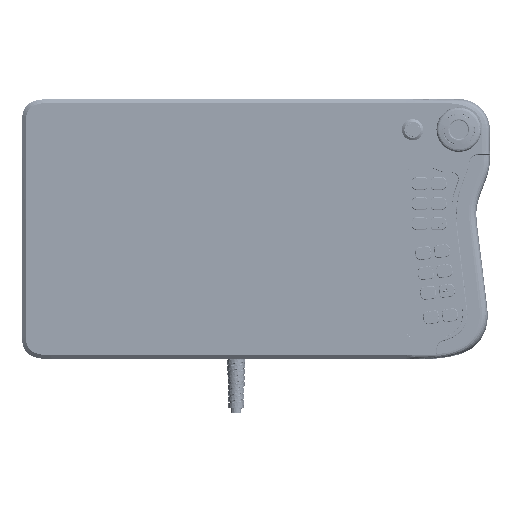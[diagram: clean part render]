
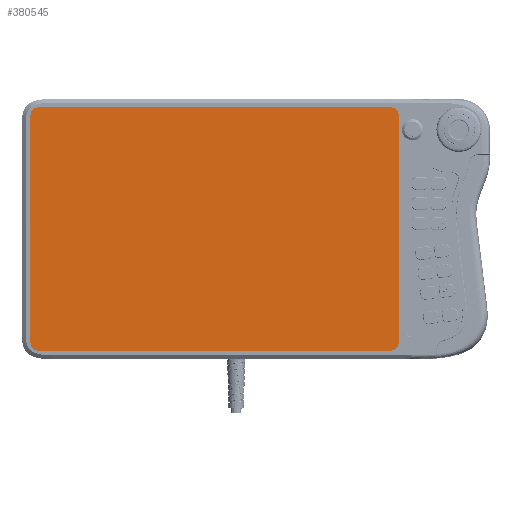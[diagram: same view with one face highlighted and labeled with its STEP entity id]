
A CAD part, top view. The second image highlights one B-rep face of the part: STEP entity #380545.
In plain terms, the highlighted planar face has unit normal (0, 0, 1).
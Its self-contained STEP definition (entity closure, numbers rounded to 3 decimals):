
#25164 = CARTESIAN_POINT ( 'NONE',  ( 114.5, -79., 1.1 ) ) ;
#35203 = DIRECTION ( 'NONE',  ( 0., 0., 1. ) ) ;
#53644 = AXIS2_PLACEMENT_3D ( 'NONE', #79893, #465156, #375251 ) ;
#57230 = CARTESIAN_POINT ( 'NONE',  ( -114.5, -79., 1.1 ) ) ;
#59113 = EDGE_CURVE ( 'NONE', #159739, #280519, #526230, .T. ) ;
#68881 = EDGE_LOOP ( 'NONE', ( #84112, #437809, #125998, #106822, #91320, #188319, #500232, #387315 ) ) ;
#71876 = DIRECTION ( 'NONE',  ( 1., 0., 0. ) ) ;
#79893 = CARTESIAN_POINT ( 'NONE',  ( -114.5, -74., 1.1 ) ) ;
#84112 = ORIENTED_EDGE ( 'NONE', *, *, #249235, .T. ) ;
#91320 = ORIENTED_EDGE ( 'NONE', *, *, #381263, .T. ) ;
#102255 = EDGE_CURVE ( 'NONE', #502082, #159739, #551039, .T. ) ;
#106822 = ORIENTED_EDGE ( 'NONE', *, *, #59113, .T. ) ;
#125998 = ORIENTED_EDGE ( 'NONE', *, *, #102255, .T. ) ;
#135528 = EDGE_CURVE ( 'NONE', #294052, #213425, #542081, .T. ) ;
#155969 = DIRECTION ( 'NONE',  ( 0., 0., 1. ) ) ;
#158154 = PLANE ( 'NONE',  #257189 ) ;
#159739 = VERTEX_POINT ( 'NONE', #370920 ) ;
#176243 = LINE ( 'NONE', #266142, #418395 ) ;
#181494 = CARTESIAN_POINT ( 'NONE',  ( 119.5, -79., 1.1 ) ) ;
#188319 = ORIENTED_EDGE ( 'NONE', *, *, #261785, .T. ) ;
#210721 = LINE ( 'NONE', #213523, #401098 ) ;
#213425 = VERTEX_POINT ( 'NONE', #334065 ) ;
#213523 = CARTESIAN_POINT ( 'NONE',  ( -119.5, -79., 1.1 ) ) ;
#226490 = DIRECTION ( 'NONE',  ( 0., 1., 0. ) ) ;
#237849 = VERTEX_POINT ( 'NONE', #309466 ) ;
#239730 = CARTESIAN_POINT ( 'NONE',  ( -119.5, 74., 1.1 ) ) ;
#241142 = CARTESIAN_POINT ( 'NONE',  ( 119.5, 74., 1.1 ) ) ;
#245264 = DIRECTION ( 'NONE',  ( 1., 0., 0. ) ) ;
#248881 = CARTESIAN_POINT ( 'NONE',  ( 114.5, -74., 1.1 ) ) ;
#249235 = EDGE_CURVE ( 'NONE', #213425, #466685, #344767, .T. ) ;
#257189 = AXIS2_PLACEMENT_3D ( 'NONE', #284723, #287488, #245264 ) ;
#261785 = EDGE_CURVE ( 'NONE', #237849, #361762, #466678, .T. ) ;
#266142 = CARTESIAN_POINT ( 'NONE',  ( 119.5, -79., 1.1 ) ) ;
#271677 = VECTOR ( 'NONE', #226490, 1000. ) ;
#280519 = VERTEX_POINT ( 'NONE', #239730 ) ;
#284723 = CARTESIAN_POINT ( 'NONE',  ( 0., 0., 1.1 ) ) ;
#287488 = DIRECTION ( 'NONE',  ( 0., 0., 1. ) ) ;
#294052 = VERTEX_POINT ( 'NONE', #25164 ) ;
#296721 = CARTESIAN_POINT ( 'NONE',  ( -114.5, 74., 1.1 ) ) ;
#299709 = AXIS2_PLACEMENT_3D ( 'NONE', #248881, #35203, #347234 ) ;
#301415 = AXIS2_PLACEMENT_3D ( 'NONE', #501789, #155969, #490780 ) ;
#303197 = EDGE_CURVE ( 'NONE', #361762, #294052, #176243, .T. ) ;
#309466 = CARTESIAN_POINT ( 'NONE',  ( -119.5, -74., 1.1 ) ) ;
#328228 = CIRCLE ( 'NONE', #301415, 5. ) ;
#334065 = CARTESIAN_POINT ( 'NONE',  ( 119.5, -74., 1.1 ) ) ;
#344767 = LINE ( 'NONE', #181494, #271677 ) ;
#347234 = DIRECTION ( 'NONE',  ( 1., 0., 0. ) ) ;
#361762 = VERTEX_POINT ( 'NONE', #57230 ) ;
#370920 = CARTESIAN_POINT ( 'NONE',  ( -114.5, 79., 1.1 ) ) ;
#374716 = FACE_OUTER_BOUND ( 'NONE', #68881, .T. ) ;
#375251 = DIRECTION ( 'NONE',  ( 1., 0., 0. ) ) ;
#380545 = ADVANCED_FACE ( 'NONE', ( #374716 ), #158154, .T. ) ;
#381263 = EDGE_CURVE ( 'NONE', #280519, #237849, #210721, .T. ) ;
#387315 = ORIENTED_EDGE ( 'NONE', *, *, #135528, .T. ) ;
#391973 = VECTOR ( 'NONE', #419017, 1000. ) ;
#401098 = VECTOR ( 'NONE', #556533, 1000. ) ;
#416218 = CARTESIAN_POINT ( 'NONE',  ( 119.5, 79., 1.1 ) ) ;
#418395 = VECTOR ( 'NONE', #477167, 1000. ) ;
#419017 = DIRECTION ( 'NONE',  ( -1., 0., 0. ) ) ;
#423254 = DIRECTION ( 'NONE',  ( 0., 0., 1. ) ) ;
#437809 = ORIENTED_EDGE ( 'NONE', *, *, #548563, .T. ) ;
#465156 = DIRECTION ( 'NONE',  ( 0., 0., 1. ) ) ;
#466678 = CIRCLE ( 'NONE', #53644, 5. ) ;
#466685 = VERTEX_POINT ( 'NONE', #241142 ) ;
#477167 = DIRECTION ( 'NONE',  ( 1., 0., 0. ) ) ;
#489591 = CARTESIAN_POINT ( 'NONE',  ( 114.5, 79., 1.1 ) ) ;
#490780 = DIRECTION ( 'NONE',  ( 1., 0., 0. ) ) ;
#500232 = ORIENTED_EDGE ( 'NONE', *, *, #303197, .T. ) ;
#501789 = CARTESIAN_POINT ( 'NONE',  ( 114.5, 74., 1.1 ) ) ;
#502082 = VERTEX_POINT ( 'NONE', #489591 ) ;
#508144 = AXIS2_PLACEMENT_3D ( 'NONE', #296721, #423254, #71876 ) ;
#526230 = CIRCLE ( 'NONE', #508144, 5. ) ;
#542081 = CIRCLE ( 'NONE', #299709, 5. ) ;
#548563 = EDGE_CURVE ( 'NONE', #466685, #502082, #328228, .T. ) ;
#551039 = LINE ( 'NONE', #416218, #391973 ) ;
#556533 = DIRECTION ( 'NONE',  ( 0., -1., 0. ) ) ;
